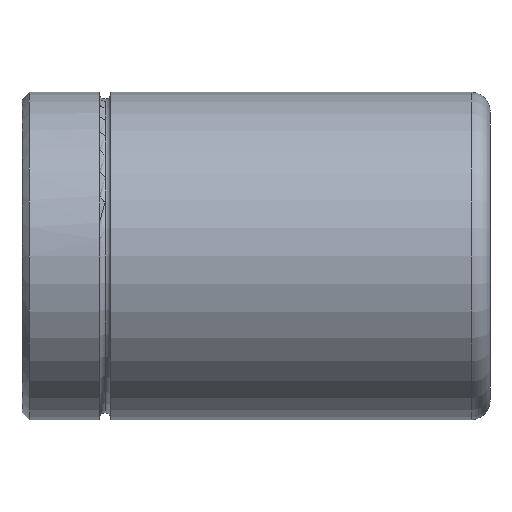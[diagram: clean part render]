
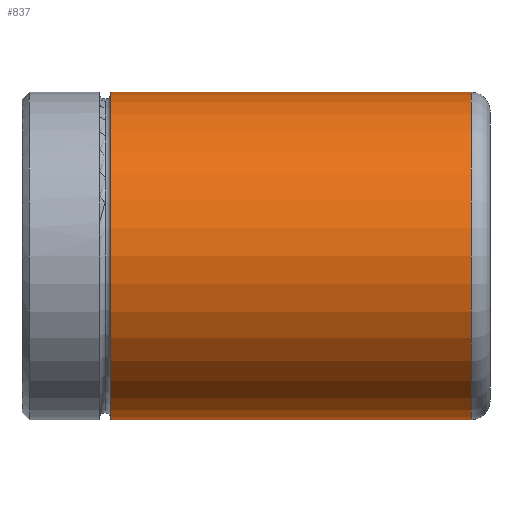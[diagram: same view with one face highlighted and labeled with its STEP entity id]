
A CAD part, front view. The second image highlights one B-rep face of the part: STEP entity #837.
In plain terms, the highlighted cylindrical face has radius 35 mm (diameter 70 mm), a partial arc.
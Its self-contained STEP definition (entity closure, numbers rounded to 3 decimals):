
#653=CARTESIAN_POINT('Vertex',(18.975,0.,35.)) ;
#660=CARTESIAN_POINT('Vertex',(18.975,0.,-35.)) ;
#686=CARTESIAN_POINT('Axis2P3D Location',(18.975,0.,0.)) ;
#690=CARTESIAN_POINT('Vertex',(18.975,-35.,0.)) ;
#693=CARTESIAN_POINT('Axis2P3D Location',(18.975,0.,0.)) ;
#777=CARTESIAN_POINT('Line Origine',(100.,0.,35.)) ;
#781=CARTESIAN_POINT('Vertex',(96.,0.,35.)) ;
#795=CARTESIAN_POINT('Vertex',(96.,0.,-35.)) ;
#798=CARTESIAN_POINT('Line Origine',(100.,0.,-35.)) ;
#812=CARTESIAN_POINT('Axis2P3D Location',(100.,0.,0.)) ;
#817=CARTESIAN_POINT('Axis2P3D Location',(96.,0.,0.)) ;
#821=CARTESIAN_POINT('Vertex',(96.,-35.,0.)) ;
#824=CARTESIAN_POINT('Axis2P3D Location',(96.,0.,0.)) ;
#687=DIRECTION('Axis2P3D Direction',(1.,-0.,0.)) ;
#694=DIRECTION('Axis2P3D Direction',(1.,-0.,0.)) ;
#778=DIRECTION('Vector Direction',(-1.,0.,0.)) ;
#799=DIRECTION('Vector Direction',(-1.,0.,0.)) ;
#813=DIRECTION('Axis2P3D Direction',(-1.,-0.,-0.)) ;
#814=DIRECTION('Axis2P3D XDirection',(0.,0.,-1.)) ;
#818=DIRECTION('Axis2P3D Direction',(-1.,-0.,-0.)) ;
#825=DIRECTION('Axis2P3D Direction',(-1.,-0.,-0.)) ;
#688=AXIS2_PLACEMENT_3D('Circle Axis2P3D',#686,#687,$) ;
#695=AXIS2_PLACEMENT_3D('Circle Axis2P3D',#693,#694,$) ;
#815=AXIS2_PLACEMENT_3D('Cylinder Axis2P3D',#812,#813,#814) ;
#819=AXIS2_PLACEMENT_3D('Circle Axis2P3D',#817,#818,$) ;
#826=AXIS2_PLACEMENT_3D('Circle Axis2P3D',#824,#825,$) ;
#830=ORIENTED_EDGE('',*,*,#802,.T.) ;
#831=ORIENTED_EDGE('',*,*,#823,.F.) ;
#832=ORIENTED_EDGE('',*,*,#828,.F.) ;
#833=ORIENTED_EDGE('',*,*,#783,.T.) ;
#834=ORIENTED_EDGE('',*,*,#697,.T.) ;
#835=ORIENTED_EDGE('',*,*,#692,.T.) ;
#779=VECTOR('Line Direction',#778,1.) ;
#800=VECTOR('Line Direction',#799,1.) ;
#837=ADVANCED_FACE('343-51 x 100',(#836),#816,.T.) ;
#689=CIRCLE('generated circle',#688,35.) ;
#696=CIRCLE('generated circle',#695,35.) ;
#820=CIRCLE('generated circle',#819,35.) ;
#827=CIRCLE('generated circle',#826,35.) ;
#816=CYLINDRICAL_SURFACE('generated cylinder',#815,35.) ;
#692=EDGE_CURVE('',#691,#661,#689,.T.) ;
#697=EDGE_CURVE('',#654,#691,#696,.T.) ;
#783=EDGE_CURVE('',#782,#654,#780,.T.) ;
#802=EDGE_CURVE('',#661,#796,#801,.F.) ;
#823=EDGE_CURVE('',#822,#796,#820,.F.) ;
#828=EDGE_CURVE('',#782,#822,#827,.F.) ;
#829=EDGE_LOOP('',(#830,#831,#832,#833,#834,#835)) ;
#836=FACE_OUTER_BOUND('',#829,.T.) ;
#780=LINE('Line',#777,#779) ;
#801=LINE('Line',#798,#800) ;
#654=VERTEX_POINT('',#653) ;
#661=VERTEX_POINT('',#660) ;
#691=VERTEX_POINT('',#690) ;
#782=VERTEX_POINT('',#781) ;
#796=VERTEX_POINT('',#795) ;
#822=VERTEX_POINT('',#821) ;
